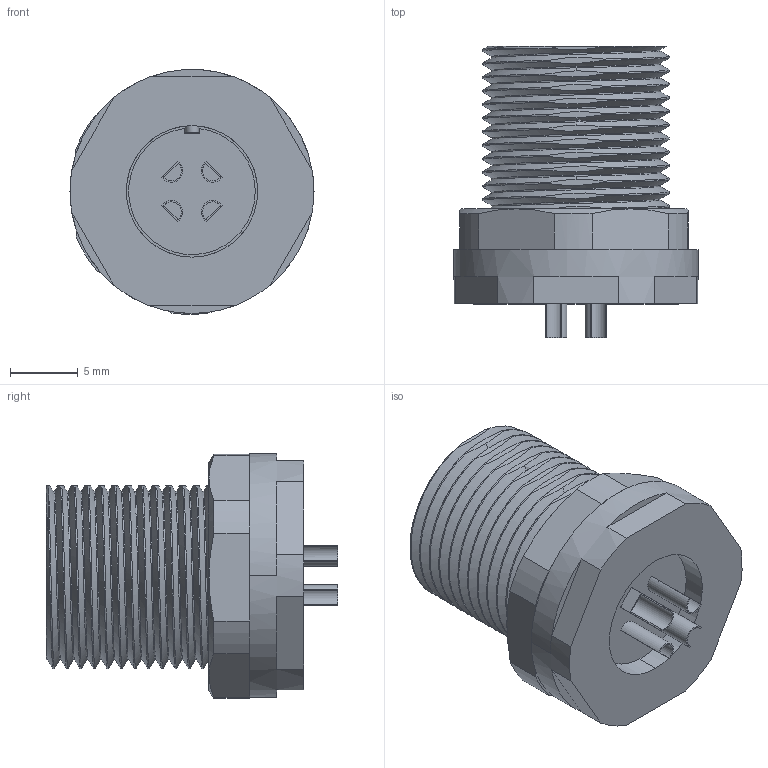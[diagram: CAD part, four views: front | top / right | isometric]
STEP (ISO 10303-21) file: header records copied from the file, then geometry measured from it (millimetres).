
FILE_DESCRIPTION((''),'2;1');
FILE_NAME('ST1213_P4','2015-04-07T',('Administrator'),(''),'PRO/ENGINEER BY PARAMETRIC TECHNOLOGY CORPORATION, 2009440','PRO/ENGINEER BY PARAMETRIC TECHNOLOGY CORPORATION, 2009440','');
FILE_SCHEMA(('CONFIG_CONTROL_DESIGN'));
Length unit declared in the file: millimetre
Products named in the file (1): ST1213_P4
Bounding box: 18 x 21.5 x 18.05 mm (x, y, z)
Volume: 2295.2 mm3; surface area: 3570.4 mm2
Topology: 1 solids, 1 shells, 176 faces, 518 edges, 348 vertices
Faces by surface type: plane 81, cylinder 55, bspline 20, cone 12, sphere 8
Entity records: 13446 total; most frequent: CARTESIAN_POINT 9002, ORIENTED_EDGE 1020, DIRECTION 787, EDGE_CURVE 510, VERTEX_POINT 348, AXIS2_PLACEMENT_3D 296, VECTOR 195, LINE 195
